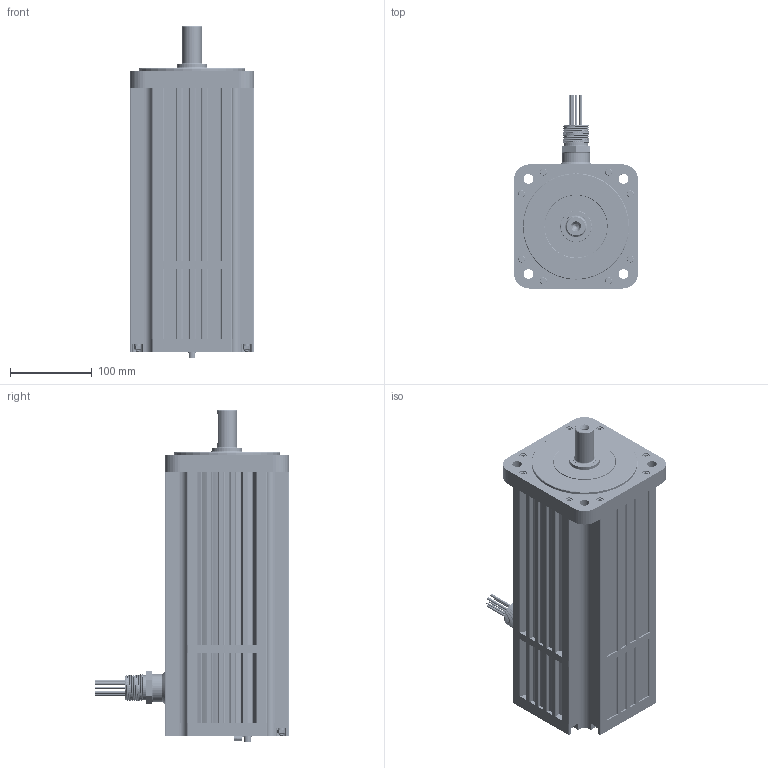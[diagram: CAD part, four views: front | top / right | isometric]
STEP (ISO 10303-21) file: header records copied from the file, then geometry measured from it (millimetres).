
FILE_DESCRIPTION (( 'STEP AP203' ), '1' );
FILE_NAME ('072799A.step', '2020-08-07T13:24:00', ( '' ), ( '' ), 'SwSTEP 2.0', 'SolidWorks 2019', '' );
FILE_SCHEMA (( 'CONFIG_CONTROL_DESIGN' ));
Products named in the file (1): 072799A
Bounding box: 152.4 x 238 x 407.39 mm (x, y, z)
Volume: 5240844.6 mm3; surface area: 1055867.4 mm2
Topology: 123 solids, 123 shells, 4896 faces, 12644 edges, 8085 vertices
Faces by surface type: cylinder 2162, plane 2030, cone 367, torus 199, bspline 138
Entity records: 164221 total; most frequent: CARTESIAN_POINT 42858, DIRECTION 26013, ORIENTED_EDGE 25120, EDGE_CURVE 12560, AXIS2_PLACEMENT_3D 9611, VERTEX_POINT 8085, VECTOR 6791, LINE 6791
